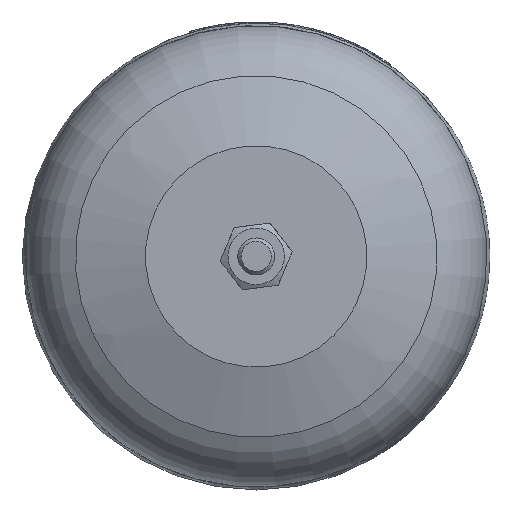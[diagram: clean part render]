
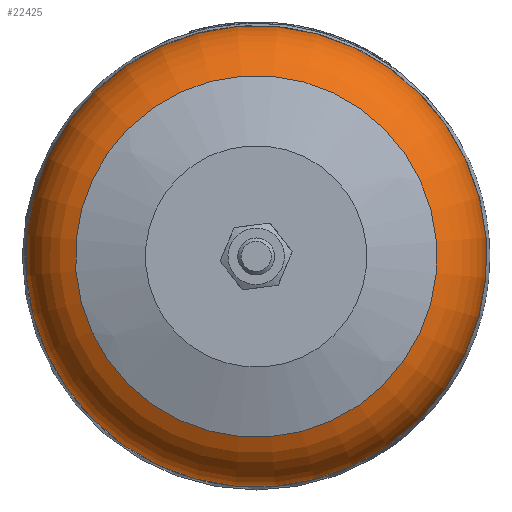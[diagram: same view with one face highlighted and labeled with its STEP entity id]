
A CAD part, front view. The second image highlights one B-rep face of the part: STEP entity #22425.
In plain terms, the highlighted toroidal (fillet/blend) face has major radius 40.5 mm and minor radius 22 mm.
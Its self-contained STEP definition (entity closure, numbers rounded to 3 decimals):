
#41=TOROIDAL_SURFACE('',#24053,40.5,22.);
#1547=CIRCLE('',#24048,48.986);
#1549=CIRCLE('',#24052,62.5);
#5314=FACE_BOUND('',#7906,.T.);
#6544=FACE_OUTER_BOUND('',#7905,.T.);
#7905=EDGE_LOOP('',(#21054));
#7906=EDGE_LOOP('',(#21055));
#11036=VERTEX_POINT('',#48421);
#11038=VERTEX_POINT('',#48427);
#14377=EDGE_CURVE('',#11036,#11036,#1547,.T.);
#14379=EDGE_CURVE('',#11038,#11038,#1549,.T.);
#21054=ORIENTED_EDGE('',*,*,#14377,.F.);
#21055=ORIENTED_EDGE('',*,*,#14379,.T.);
#22425=ADVANCED_FACE('',(#6544,#5314),#41,.T.);
#24048=AXIS2_PLACEMENT_3D('',#48422,#28890,#28891);
#24052=AXIS2_PLACEMENT_3D('',#48428,#28898,#28899);
#24053=AXIS2_PLACEMENT_3D('',#48429,#28900,#28901);
#28890=DIRECTION('center_axis',(0.,-1.,0.));
#28891=DIRECTION('ref_axis',(0.996,0.,-0.093));
#28898=DIRECTION('center_axis',(0.,-1.,0.));
#28899=DIRECTION('ref_axis',(0.996,0.,-0.093));
#28900=DIRECTION('center_axis',(0.,-1.,0.));
#28901=DIRECTION('ref_axis',(-0.093,0.,-0.996));
#48421=CARTESIAN_POINT('',(48.776,-165.062,-4.531));
#48422=CARTESIAN_POINT('Origin',(0.,-165.062,
0.));
#48427=CARTESIAN_POINT('',(62.232,-144.765,-5.781));
#48428=CARTESIAN_POINT('Origin',(0.,-144.765,
0.));
#48429=CARTESIAN_POINT('Origin',(0.,-144.765,
0.));
